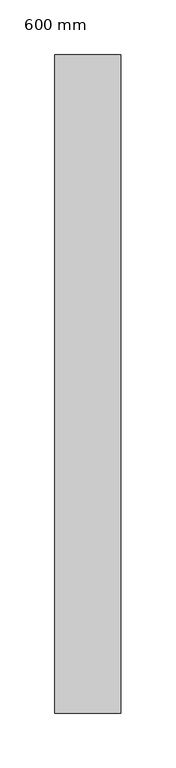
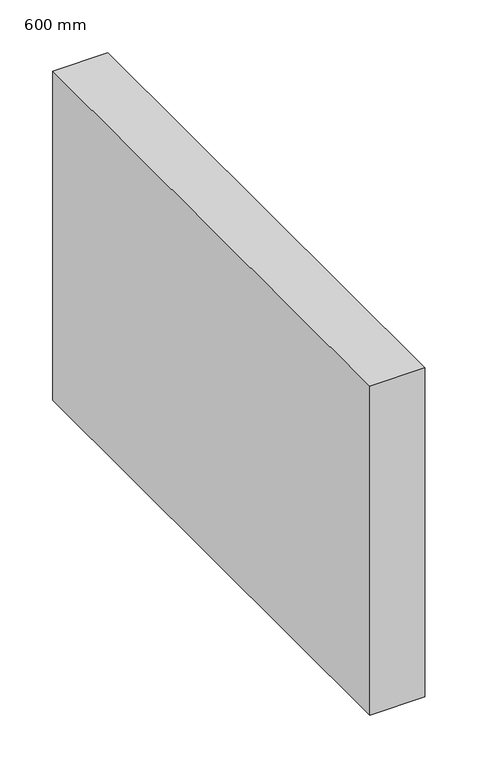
"""IFC4 building model written with IfcOpenShell, lengths in millimetres: furniture geometry, MATERIA-Monolite-Armrest : 600 mm."""

from ifc_helpers import new_model, si_unit, frame, origin, place, context, project, spatial, polyline, outline, extrude, source, transform, mapped, element, save


def furniture_600_mm_6fd5deb9(model_context):
    return source(origin(), model_context, "Body", "SweptSolid", [
        extrude(outline(polyline([(0.0, 0.0), (-60.0000441, 0.0), (-60.0000441, 600.0000772), (0.0, 600.0000772), (0.0, 0.0)])), frame((0.0, 0.0, 248.000015), z_axis=(0.0, 0.0, 1.0), x_axis=(1.0, 0.0, 0.0)), (0.0, 0.0, 1.0), 380.0000247),
    ])


if __name__ == "__main__":
    model = new_model("IFC4")
    model_context = context("Model", 3, world=origin())
    ifc_project = project(units=[si_unit("LENGTHUNIT", "METRE", prefix="MILLI")], contexts=[model_context])
    site = spatial("IfcSite", under=ifc_project)
    building = spatial("IfcBuilding", under=site)
    placement = place(None, origin())
    furniture_600_mm_shape = furniture_600_mm_6fd5deb9(model_context)
    element("IfcFurniture", 1, ObjectType="MATERIA-Monolite-Armrest : 600 mm", at=placement, inside=building, context=model_context, shape_type="MappedRepresentation", body=[
        mapped(furniture_600_mm_shape, transform((0.0, 0.0, 0.0), x_axis=(1.0, 0.0, 0.0), y_axis=(0.0, 1.0, 0.0), z_axis=(0.0, 0.0, 1.0))),
    ])
    save(model, "model.ifc")
